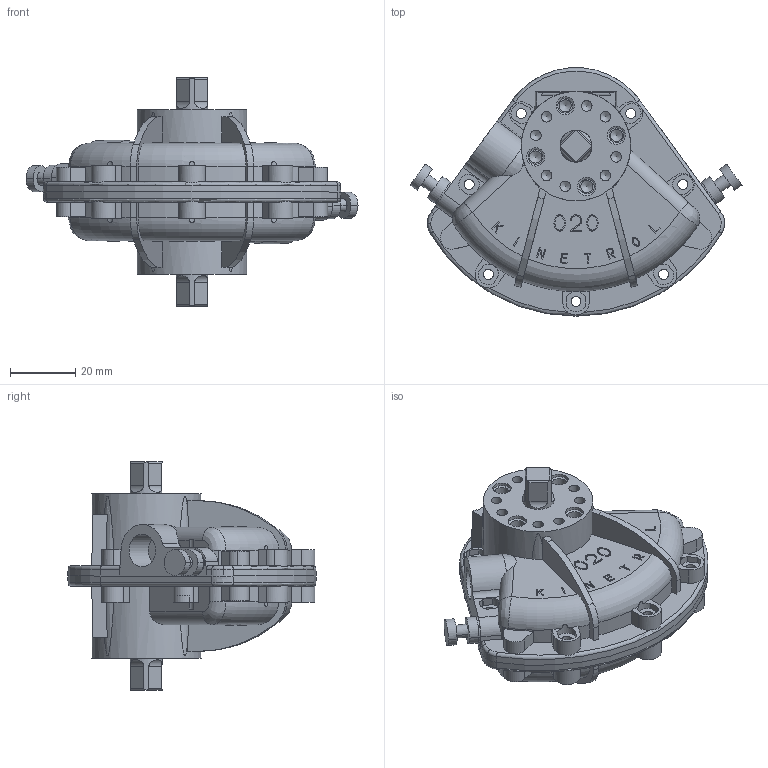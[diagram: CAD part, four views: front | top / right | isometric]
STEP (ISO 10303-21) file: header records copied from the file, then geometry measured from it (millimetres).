
FILE_DESCRIPTION( ( 'Unknown' ), '1' );
FILE_NAME( 'Z:/3D Models for Customers/ACTUATOR MODELS OMO TO 300 (.pwd & .stp & .igs & .asm)/024-100/024-100.stp', 'Unknown', ( 'Unknown' ), ( 'Unknown' ), 'PSStep 16.0.42', 'Unknown', ' ' );
FILE_SCHEMA( ( 'AUTOMOTIVE_DESIGN { 1 0 10303 214 1 1 1 1 }' ) );
Length unit declared in the file: millimetre
Products named in the file (1): 020-1.par 1 4
Bounding box: 101.61 x 76.01 x 70 mm (x, y, z)
Volume: 119857.7 mm3; surface area: 25087.8 mm2
Topology: 1 solids, 1 shells, 738 faces, 2000 edges, 1314 vertices
Faces by surface type: plane 382, cylinder 284, cone 50, torus 16, bspline 4, sphere 2
Full cylindrical faces by diameter (mm): 3.242 x32, 3.7 x8, 4.5 x8, 5.6 x8, 10 x2, 33.5 x2
Entity records: 29792 total; most frequent: CARTESIAN_POINT 5561, DIRECTION 3890, ORIENTED_EDGE 3684, EDGE_CURVE 1842, AXIS2_PLACEMENT_3D 1421, VERTEX_POINT 1272, LINE 1048, VECTOR 1048
